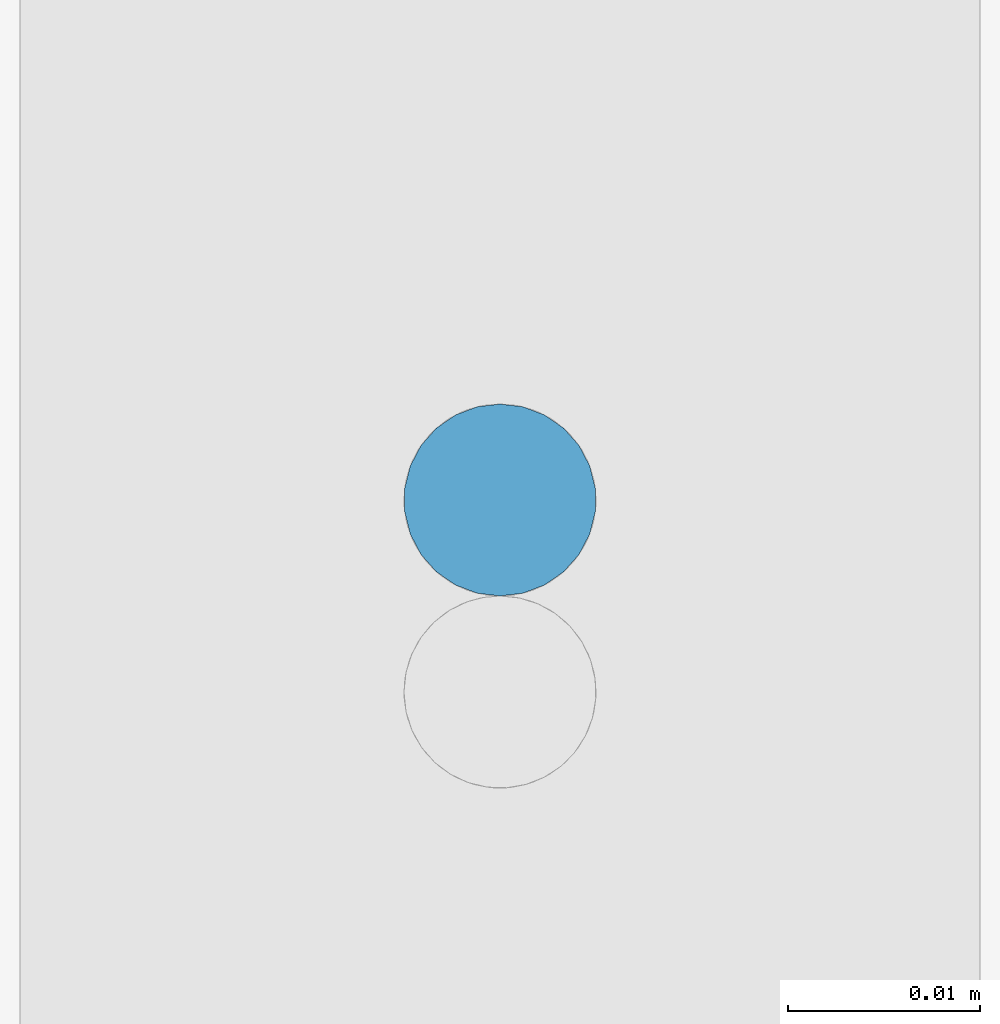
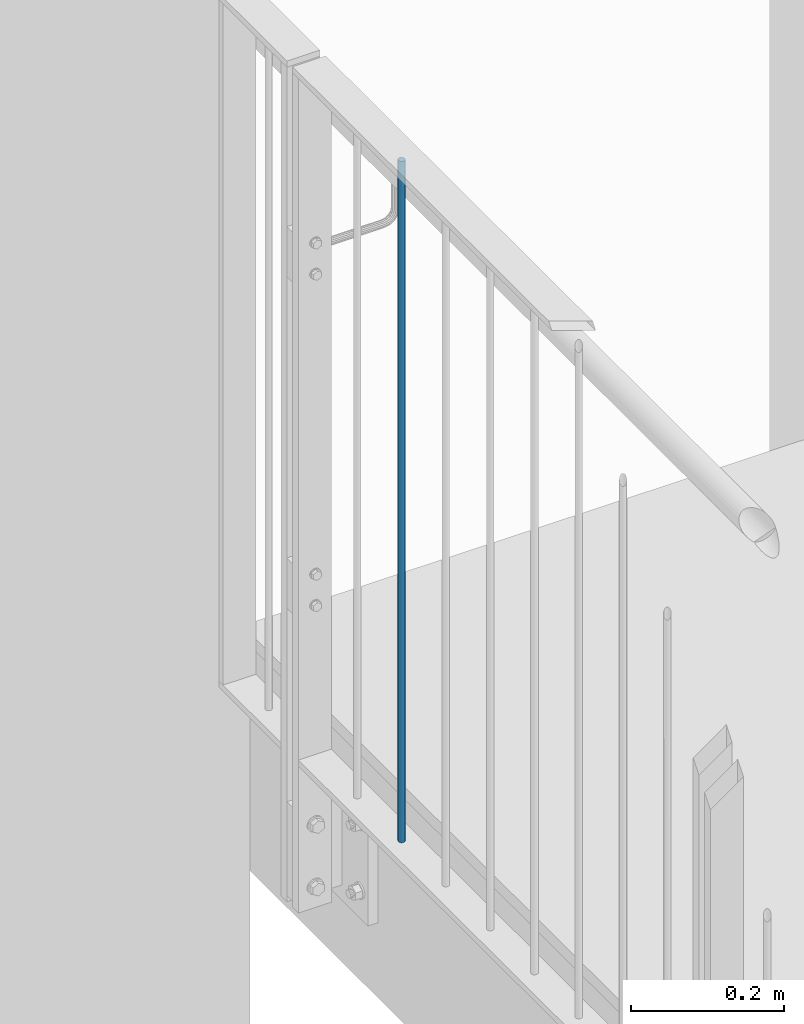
# One storey, part 47 of 296: 1 column.
"""IFC2X3 building model written with IfcOpenShell, lengths in millimetres."""

from ifc_helpers import new_model, entity, si_unit, converted_unit, frame, origin, origin_with_axes, origin_2d, place, context, project, spatial, circle, extrude, material, element, save


model = new_model("IFC2X3")

# Units and contexts
model_context = context("Model", 3, precision=1e-09, world=origin_with_axes())
ifc_project = project(units=[si_unit("LENGTHUNIT", "METRE", prefix="MILLI"), si_unit("AREAUNIT", "SQUARE_METRE"), si_unit("VOLUMEUNIT", "CUBIC_METRE"), converted_unit("PLANEANGLEUNIT", "DEGREE", entity("IfcPlaneAngleMeasure", 0.01745329), si_unit("PLANEANGLEUNIT", "RADIAN"), dimensions=[0, 0, 0, 0, 0, 0, 0])], contexts=[model_context])

# Site, building, storey
site_placement = place(None, origin_with_axes())
site = spatial("IfcSite", under=ifc_project, at=site_placement, Name="TZD-S?d | Treppenhausgel?nder", CompositionType="ELEMENT")
building_placement = place(site_placement, origin_with_axes())
building = spatial("IfcBuilding", under=site, at=building_placement, Name="Struktur 1", CompositionType="ELEMENT")
storey_placement = place(building_placement, origin_with_axes())
storey = spatial("IfcBuildingStorey", under=building, at=storey_placement, Name="Default Storey", CompositionType="ELEMENT", Elevation=0.0)

# Column
ifc_material = material(Name="S235JR")
column_placement = place(None, frame((-45.0, -729.7222222, 11725.0), z_axis=(0.0, 0.0, 1.0), x_axis=(0.0, 1.0, 0.0)))
element("IfcColumn", 1, at=column_placement, inside=storey, material=ifc_material, Name="-", ObjectType="-", context=model_context, shape_type="SweptSolid", body=[
    extrude(circle(Radius=5.0, at=origin_2d()), origin(), (0.0, 0.0, 1.0), 1090.0),
])

save(model, "model.ifc")
